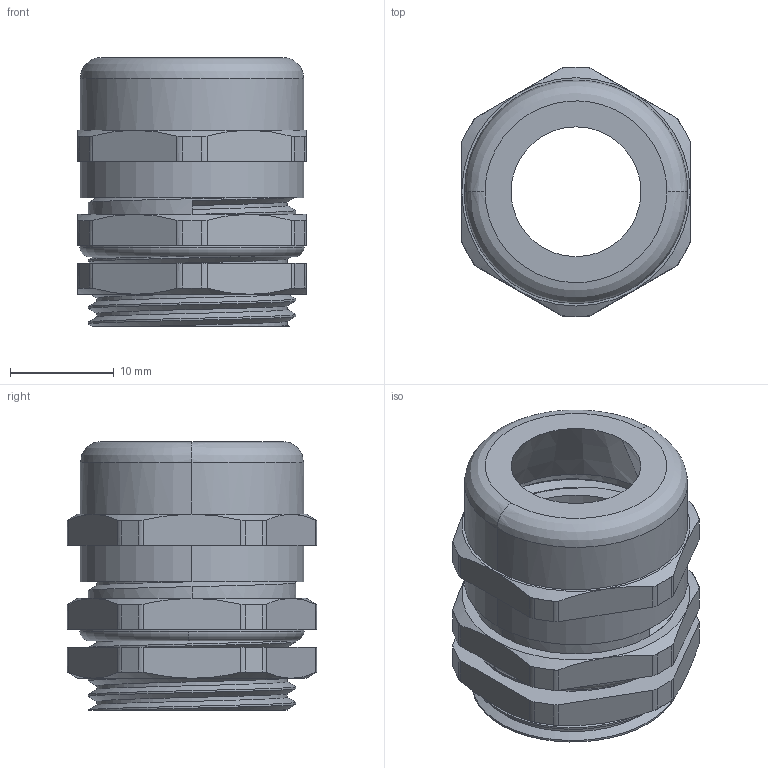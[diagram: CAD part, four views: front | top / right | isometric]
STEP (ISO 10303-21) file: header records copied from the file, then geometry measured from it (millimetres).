
FILE_DESCRIPTION (( 'STEP AP214' ), '1' );
FILE_NAME ('R5BCM20.STEP', '2022-10-11T07:01:00', ( '' ), ( '' ), 'SwSTEP 2.0', 'SolidWorks 2022', '' );
FILE_SCHEMA (( 'AUTOMOTIVE_DESIGN' ));
Length unit declared in the file: millimetre
Products named in the file (5): R5BCM20; Корпус_R5BCM20; Крышка_R5BCM20; Уплотнительное кольцо_R5BCM20; Фиксирующая гайка_R5BCM20
Assembly tree (4 placements, depth 2):
  R5BCM20
    Корпус_R5BCM20
    Уплотнительное кольцо_R5BCM20
    Фиксирующая гайка_R5BCM20
    Крышка_R5BCM20
Bounding box: 22 x 24 x 25.9 mm (x, y, z)
Volume: 4150.4 mm3; surface area: 6177.3 mm2
Topology: 4 solids, 4 shells, 210 faces, 545 edges, 346 vertices
Faces by surface type: plane 90, cylinder 78, cone 22, bspline 14, torus 6
Entity records: 14492 total; most frequent: CARTESIAN_POINT 9488, ORIENTED_EDGE 1090, DIRECTION 942, EDGE_CURVE 545, AXIS2_PLACEMENT_3D 372, VERTEX_POINT 346, EDGE_LOOP 221, ADVANCED_FACE 210
